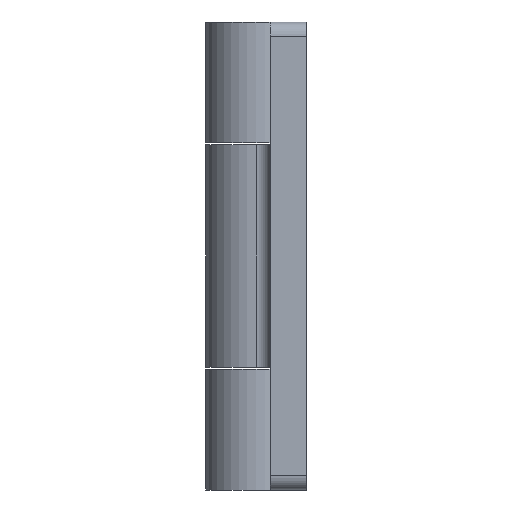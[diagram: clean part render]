
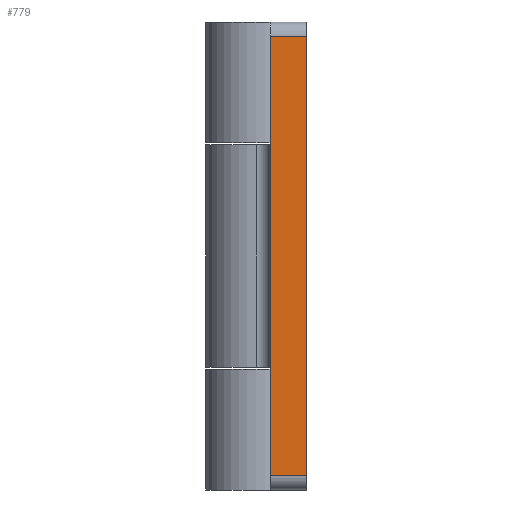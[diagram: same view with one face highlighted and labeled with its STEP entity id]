
A CAD part, left-side view. The second image highlights one B-rep face of the part: STEP entity #779.
In plain terms, the highlighted planar face has unit normal (-1, 0, 0).
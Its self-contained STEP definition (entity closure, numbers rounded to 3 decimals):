
#347=FACE_OUTER_BOUND('',#1871,.T.);
#779=ADVANCED_FACE('',(#347),#1238,.T.);
#1238=PLANE('',#8315);
#1871=EDGE_LOOP('',(#2729,#2730,#2731,#2732));
#2729=ORIENTED_EDGE('',*,*,#5928,.T.);
#2730=ORIENTED_EDGE('',*,*,#5932,.T.);
#2731=ORIENTED_EDGE('',*,*,#5887,.F.);
#2732=ORIENTED_EDGE('',*,*,#5933,.F.);
#5089=VERTEX_POINT('',#10617);
#5090=VERTEX_POINT('',#10618);
#5127=VERTEX_POINT('',#10696);
#5128=VERTEX_POINT('',#10698);
#5887=EDGE_CURVE('',#5089,#5090,#7043,.T.);
#5928=EDGE_CURVE('',#5128,#5127,#7064,.T.);
#5932=EDGE_CURVE('',#5127,#5090,#7066,.T.);
#5933=EDGE_CURVE('',#5128,#5089,#7067,.T.);
#7043=LINE('',#10616,#7692);
#7064=LINE('',#10697,#7713);
#7066=LINE('',#10705,#7715);
#7067=LINE('',#10706,#7716);
#7692=VECTOR('',#8831,1.);
#7713=VECTOR('',#8894,1.);
#7715=VECTOR('',#8902,1.);
#7716=VECTOR('',#8903,1.);
#8315=AXIS2_PLACEMENT_3D('',#10707,#8904,#8905);
#8831=DIRECTION('',(0.,0.,-1.));
#8894=DIRECTION('',(0.,0.,-1.));
#8902=DIRECTION('',(0.,-1.,0.));
#8903=DIRECTION('',(0.,-1.,0.));
#8904=DIRECTION('',(-1.,0.,0.));
#8905=DIRECTION('',(0.,0.,1.));
#10616=CARTESIAN_POINT('',(-32.5,0.,0.));
#10617=CARTESIAN_POINT('',(-32.5,0.,30.5));
#10618=CARTESIAN_POINT('',(-32.5,0.,-30.5));
#10696=CARTESIAN_POINT('',(-32.5,5.,-30.5));
#10697=CARTESIAN_POINT('',(-32.5,5.,0.));
#10698=CARTESIAN_POINT('',(-32.5,5.,30.5));
#10705=CARTESIAN_POINT('',(-32.5,0.,-30.5));
#10706=CARTESIAN_POINT('',(-32.5,0.,30.5));
#10707=CARTESIAN_POINT('',(-32.5,0.,0.));
